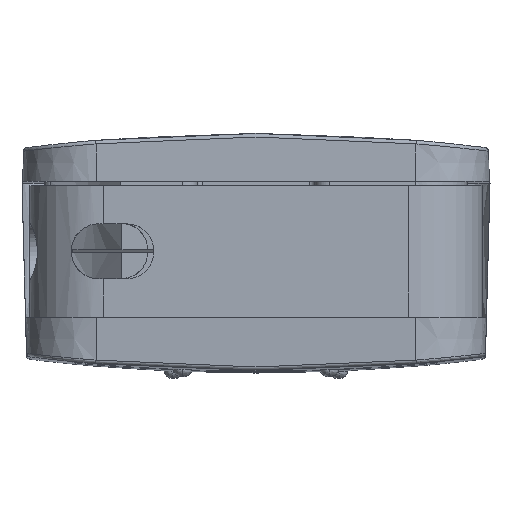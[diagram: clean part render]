
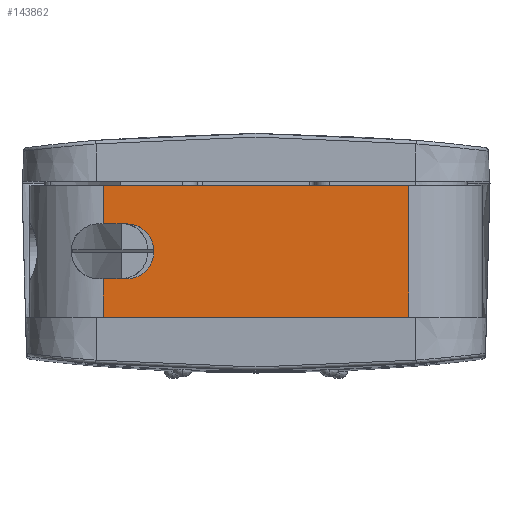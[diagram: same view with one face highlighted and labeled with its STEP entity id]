
A CAD part, top view. The second image highlights one B-rep face of the part: STEP entity #143862.
In plain terms, the highlighted planar face has unit normal (0, 0, 1).
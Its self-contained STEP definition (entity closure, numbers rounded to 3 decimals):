
#2071 = DIRECTION ( 'NONE',  ( -1., 0., 0. ) ) ;
#3877 = EDGE_LOOP ( 'NONE', ( #133470, #206047, #83674, #40176, #207792, #212245, #9778, #38237, #168985 ) ) ;
#4215 = CARTESIAN_POINT ( 'NONE',  ( 0., -3.19, 39.8 ) ) ;
#6901 = LINE ( 'NONE', #209935, #94559 ) ;
#8028 = DIRECTION ( 'NONE',  ( 1., 0., 0. ) ) ;
#9778 = ORIENTED_EDGE ( 'NONE', *, *, #150784, .T. ) ;
#11754 = EDGE_CURVE ( 'NONE', #86665, #112960, #22937, .T. ) ;
#14773 = DIRECTION ( 'NONE',  ( 0., 0., 1. ) ) ;
#17449 = EDGE_CURVE ( 'NONE', #67513, #52985, #206215, .T. ) ;
#22937 = CIRCLE ( 'NONE', #43457, 1.5 ) ;
#23347 = AXIS2_PLACEMENT_3D ( 'NONE', #199705, #100858, #2071 ) ;
#24766 = CARTESIAN_POINT ( 'NONE',  ( 8.3, 3.96, 39.8 ) ) ;
#26873 = DIRECTION ( 'NONE',  ( 0., 1., 0. ) ) ;
#27043 = EDGE_CURVE ( 'NONE', #41248, #124553, #6901, .T. ) ;
#28856 = DIRECTION ( 'NONE',  ( 1., 0., 0. ) ) ;
#30902 = PLANE ( 'NONE',  #23347 ) ;
#31291 = CARTESIAN_POINT ( 'NONE',  ( -8.3, 1.885, 39.8 ) ) ;
#35748 = VERTEX_POINT ( 'NONE', #31291 ) ;
#38237 = ORIENTED_EDGE ( 'NONE', *, *, #11754, .F. ) ;
#40176 = ORIENTED_EDGE ( 'NONE', *, *, #173030, .F. ) ;
#41248 = VERTEX_POINT ( 'NONE', #44393 ) ;
#42349 = FACE_OUTER_BOUND ( 'NONE', #3877, .T. ) ;
#43457 = AXIS2_PLACEMENT_3D ( 'NONE', #205683, #106889, #8028 ) ;
#43682 = EDGE_CURVE ( 'NONE', #110136, #86686, #145437, .T. ) ;
#44393 = CARTESIAN_POINT ( 'NONE',  ( -8.3, -1.115, 39.8 ) ) ;
#52985 = VERTEX_POINT ( 'NONE', #24766 ) ;
#53433 = LINE ( 'NONE', #111101, #164493 ) ;
#61112 = EDGE_CURVE ( 'NONE', #35748, #67513, #107417, .T. ) ;
#67513 = VERTEX_POINT ( 'NONE', #187162 ) ;
#71138 = AXIS2_PLACEMENT_3D ( 'NONE', #113650, #14773, #130244 ) ;
#76719 = DIRECTION ( 'NONE',  ( 1., 0., 0. ) ) ;
#79288 = DIRECTION ( 'NONE',  ( 0., 1., 0. ) ) ;
#79722 = VECTOR ( 'NONE', #108931, 1000. ) ;
#83674 = ORIENTED_EDGE ( 'NONE', *, *, #43682, .F. ) ;
#86665 = VERTEX_POINT ( 'NONE', #126902 ) ;
#86686 = VERTEX_POINT ( 'NONE', #110330 ) ;
#88296 = DIRECTION ( 'NONE',  ( 0., -1., 0. ) ) ;
#93641 = EDGE_CURVE ( 'NONE', #86686, #41248, #53433, .T. ) ;
#94559 = VECTOR ( 'NONE', #28856, 1000. ) ;
#95071 = EDGE_CURVE ( 'NONE', #124553, #86665, #177373, .T. ) ;
#99285 = VECTOR ( 'NONE', #76719, 1000. ) ;
#100858 = DIRECTION ( 'NONE',  ( 0., 0., -1. ) ) ;
#101508 = VECTOR ( 'NONE', #103029, 1000. ) ;
#103029 = DIRECTION ( 'NONE',  ( -1., 0., 0. ) ) ;
#104204 = CARTESIAN_POINT ( 'NONE',  ( 8.3, 0.385, 39.8 ) ) ;
#106889 = DIRECTION ( 'NONE',  ( 0., 0., 1. ) ) ;
#107417 = LINE ( 'NONE', #142344, #151331 ) ;
#108931 = DIRECTION ( 'NONE',  ( 1., 0., 0. ) ) ;
#109257 = CARTESIAN_POINT ( 'NONE',  ( -7.8, 1.885, 39.8 ) ) ;
#110136 = VERTEX_POINT ( 'NONE', #209009 ) ;
#110330 = CARTESIAN_POINT ( 'NONE',  ( -8.3, -3.19, 39.8 ) ) ;
#111101 = CARTESIAN_POINT ( 'NONE',  ( -8.3, 0.385, 39.8 ) ) ;
#112960 = VERTEX_POINT ( 'NONE', #180612 ) ;
#113650 = CARTESIAN_POINT ( 'NONE',  ( -7.05, 0.385, 39.8 ) ) ;
#121167 = LINE ( 'NONE', #104204, #165077 ) ;
#124553 = VERTEX_POINT ( 'NONE', #202014 ) ;
#126902 = CARTESIAN_POINT ( 'NONE',  ( -5.55, 0.385, 39.8 ) ) ;
#130244 = DIRECTION ( 'NONE',  ( 1., 0., 0. ) ) ;
#133470 = ORIENTED_EDGE ( 'NONE', *, *, #27043, .F. ) ;
#142344 = CARTESIAN_POINT ( 'NONE',  ( -8.3, 0.385, 39.8 ) ) ;
#143215 = LINE ( 'NONE', #109257, #99285 ) ;
#143862 = ADVANCED_FACE ( 'NONE', ( #42349 ), #30902, .F. ) ;
#145437 = LINE ( 'NONE', #4215, #101508 ) ;
#150784 = EDGE_CURVE ( 'NONE', #35748, #112960, #143215, .T. ) ;
#151331 = VECTOR ( 'NONE', #26873, 1000. ) ;
#164493 = VECTOR ( 'NONE', #79288, 1000. ) ;
#165077 = VECTOR ( 'NONE', #88296, 1000. ) ;
#168985 = ORIENTED_EDGE ( 'NONE', *, *, #95071, .F. ) ;
#173030 = EDGE_CURVE ( 'NONE', #52985, #110136, #121167, .T. ) ;
#177373 = CIRCLE ( 'NONE', #71138, 1.5 ) ;
#180612 = CARTESIAN_POINT ( 'NONE',  ( -7.05, 1.885, 39.8 ) ) ;
#187162 = CARTESIAN_POINT ( 'NONE',  ( -8.3, 3.96, 39.8 ) ) ;
#195359 = CARTESIAN_POINT ( 'NONE',  ( 0., 3.96, 39.8 ) ) ;
#199705 = CARTESIAN_POINT ( 'NONE',  ( 8.3, -3.19, 39.8 ) ) ;
#202014 = CARTESIAN_POINT ( 'NONE',  ( -7.05, -1.115, 39.8 ) ) ;
#205683 = CARTESIAN_POINT ( 'NONE',  ( -7.05, 0.385, 39.8 ) ) ;
#206047 = ORIENTED_EDGE ( 'NONE', *, *, #93641, .F. ) ;
#206215 = LINE ( 'NONE', #195359, #79722 ) ;
#207792 = ORIENTED_EDGE ( 'NONE', *, *, #17449, .F. ) ;
#209009 = CARTESIAN_POINT ( 'NONE',  ( 8.3, -3.19, 39.8 ) ) ;
#209935 = CARTESIAN_POINT ( 'NONE',  ( 0., -1.115, 39.8 ) ) ;
#212245 = ORIENTED_EDGE ( 'NONE', *, *, #61112, .F. ) ;
